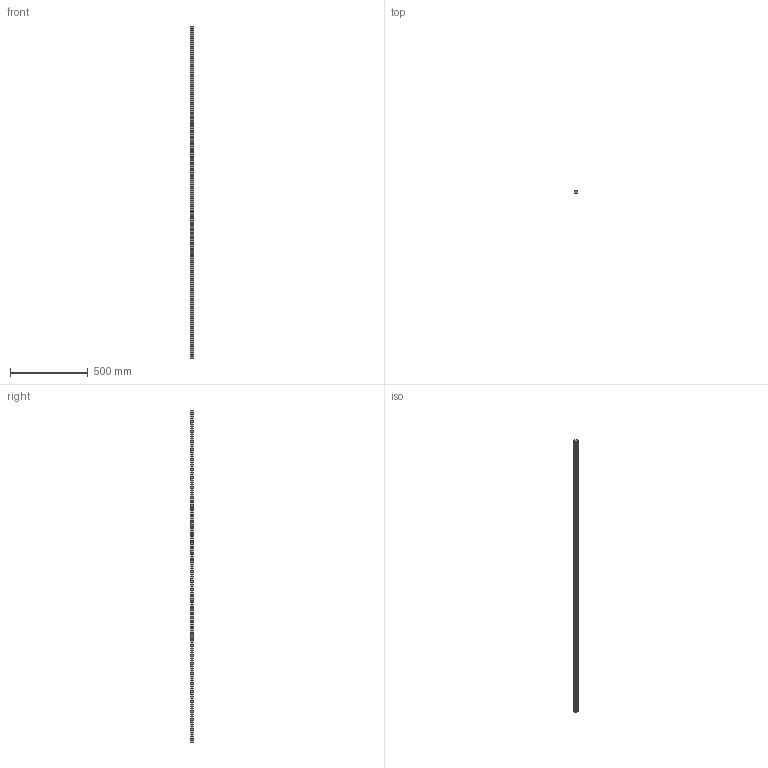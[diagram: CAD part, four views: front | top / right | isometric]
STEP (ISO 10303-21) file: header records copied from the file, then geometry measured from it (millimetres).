
FILE_DESCRIPTION (( 'STEP AP203' ), '1' );
FILE_NAME ('L1016.BL25-2140.step', '2019-06-12T12:10:08', ( '' ), ( '' ), 'SwSTEP 2.0', 'SolidWorks 2017', '' );
FILE_SCHEMA (( 'CONFIG_CONTROL_DESIGN' ));
Length unit declared in the file: millimetre
Products named in the file (1): L1016.BL25-2140
Bounding box: 23 x 19.2 x 2140 mm (x, y, z)
Volume: 788508.1 mm3; surface area: 202733.8 mm2
Topology: 1 solids, 1 shells, 206 faces, 504 edges, 336 vertices
Faces by surface type: cylinder 148, plane 58
Entity records: 6445 total; most frequent: DIRECTION 1214, CARTESIAN_POINT 1047, ORIENTED_EDGE 1008, EDGE_CURVE 504, AXIS2_PLACEMENT_3D 503, VERTEX_POINT 336, EDGE_LOOP 314, CIRCLE 296
